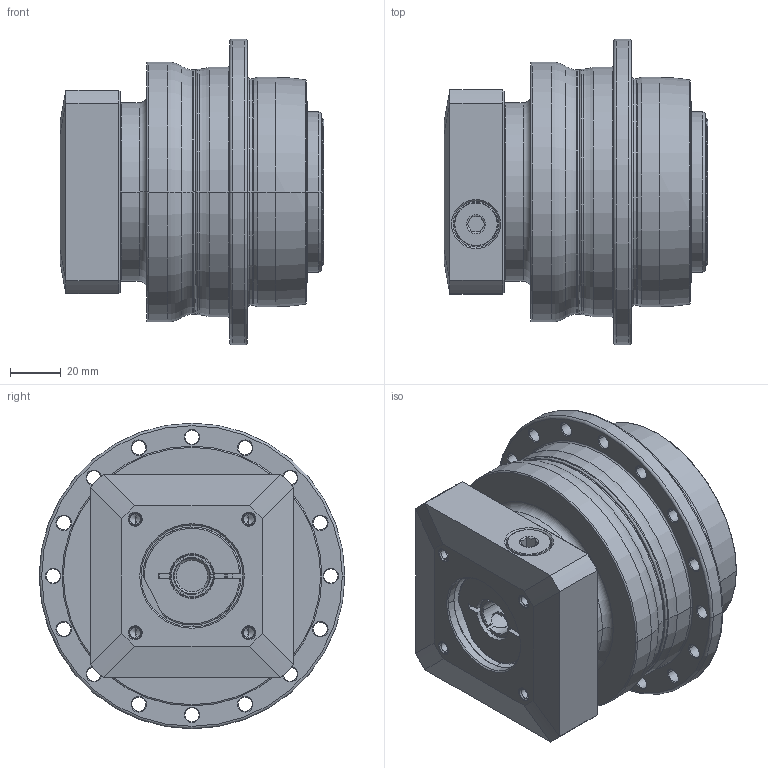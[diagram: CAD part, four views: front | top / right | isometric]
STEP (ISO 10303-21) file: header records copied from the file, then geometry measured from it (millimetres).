
FILE_DESCRIPTION((''),'2;1');
FILE_NAME('AP090_1ST_14-P0409320201_ASM','2018-10-16T',('d01226'),(''),'PRO/ENGINEER BY PARAMETRIC TECHNOLOGY CORPORATION, 2015240','PRO/ENGINEER BY PARAMETRIC TECHNOLOGY CORPORATION, 2015240','');
FILE_SCHEMA(('CONFIG_CONTROL_DESIGN'));
Length unit declared in the file: millimetre
Products named in the file (9): P0278301003; P0359301103; P1318310101; P0503300006; P0912301001; P1211300001; P0409320201; 21711412017; AP090_1ST_14-P0409320201_ASM
Assembly tree (8 placements, depth 2):
  AP090_1ST_14-P0409320201_ASM
    P0278301003
    P0359301103
    P1318310101
    P0503300006
    P0912301001
    P1211300001
    P0409320201
    21711412017
Bounding box: 103.5 x 120 x 120 mm (x, y, z)
Volume: 589743.9 mm3; surface area: 127326.2 mm2
Topology: 9 solids, 30 shells, 560 faces, 1296 edges, 798 vertices
Faces by surface type: cylinder 236, cone 144, plane 99, torus 67, bspline 14
Entity records: 20654 total; most frequent: CARTESIAN_POINT 7245, DIRECTION 3073, ORIENTED_EDGE 2490, AXIS2_PLACEMENT_3D 1314, EDGE_CURVE 1288, VERTEX_POINT 798, CIRCLE 741, EDGE_LOOP 684
